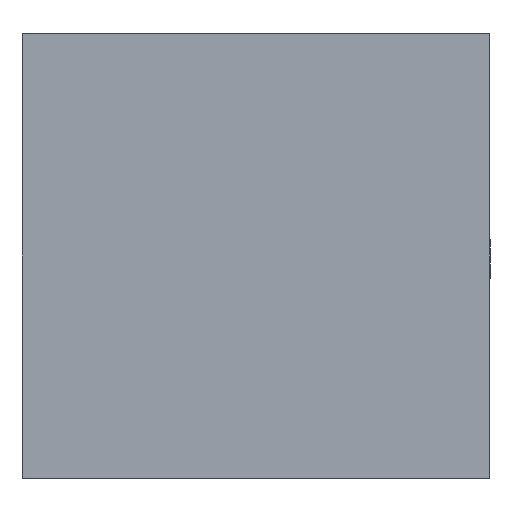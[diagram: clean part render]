
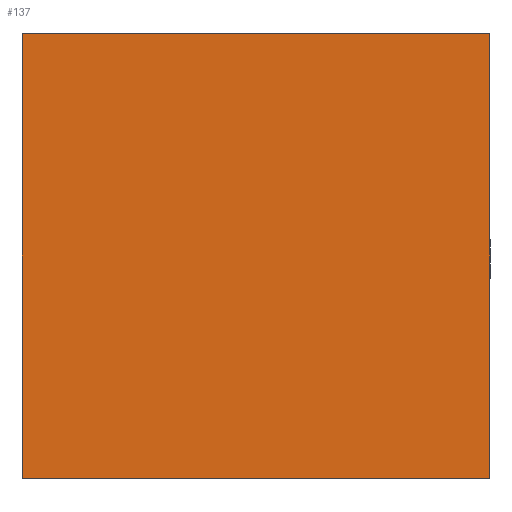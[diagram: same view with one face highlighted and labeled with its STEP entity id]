
A CAD part, left-side view. The second image highlights one B-rep face of the part: STEP entity #137.
In plain terms, the highlighted planar face has unit normal (-1, 0, 0).
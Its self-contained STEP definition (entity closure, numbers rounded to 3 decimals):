
#21 = EDGE_CURVE('',#22,#24,#26,.T.);
#22 = VERTEX_POINT('',#23);
#23 = CARTESIAN_POINT('',(-4.45,5.,4.75));
#24 = VERTEX_POINT('',#25);
#25 = CARTESIAN_POINT('',(-4.45,-5.,4.75));
#26 = SURFACE_CURVE('',#27,(#31,#43),.PCURVE_S1.);
#27 = LINE('',#28,#29);
#28 = CARTESIAN_POINT('',(-4.45,5.,4.75));
#29 = VECTOR('',#30,1.);
#30 = DIRECTION('',(0.,-1.,0.));
#31 = PCURVE('',#32,#37);
#32 = PLANE('',#33);
#33 = AXIS2_PLACEMENT_3D('',#34,#35,#36);
#34 = CARTESIAN_POINT('',(-4.45,5.,4.75));
#35 = DIRECTION('',(0.,0.,1.));
#36 = DIRECTION('',(1.,0.,0.));
#37 = DEFINITIONAL_REPRESENTATION('',(#38),#42);
#38 = LINE('',#39,#40);
#39 = CARTESIAN_POINT('',(0.,0.));
#40 = VECTOR('',#41,1.);
#41 = DIRECTION('',(0.,-1.));
#42 = ( GEOMETRIC_REPRESENTATION_CONTEXT(2) 
PARAMETRIC_REPRESENTATION_CONTEXT() REPRESENTATION_CONTEXT('2D SPACE',''
  ) );
#43 = PCURVE('',#44,#49);
#44 = PLANE('',#45);
#45 = AXIS2_PLACEMENT_3D('',#46,#47,#48);
#46 = CARTESIAN_POINT('',(-4.45,5.,-4.75));
#47 = DIRECTION('',(-1.,0.,0.));
#48 = DIRECTION('',(0.,0.,1.));
#49 = DEFINITIONAL_REPRESENTATION('',(#50),#54);
#50 = LINE('',#51,#52);
#51 = CARTESIAN_POINT('',(9.5,0.));
#52 = VECTOR('',#53,1.);
#53 = DIRECTION('',(0.,-1.));
#54 = ( GEOMETRIC_REPRESENTATION_CONTEXT(2) 
PARAMETRIC_REPRESENTATION_CONTEXT() REPRESENTATION_CONTEXT('2D SPACE',''
  ) );
#72 = PLANE('',#73);
#73 = AXIS2_PLACEMENT_3D('',#74,#75,#76);
#74 = CARTESIAN_POINT('',(-4.45,-5.,4.75));
#75 = DIRECTION('',(0.,-1.,0.));
#76 = DIRECTION('',(0.,0.,-1.));
#126 = PLANE('',#127);
#127 = AXIS2_PLACEMENT_3D('',#128,#129,#130);
#128 = CARTESIAN_POINT('',(-4.45,5.,4.75));
#129 = DIRECTION('',(0.,-1.,0.));
#130 = DIRECTION('',(0.,0.,-1.));
#137 = ADVANCED_FACE('',(#138),#44,.T.);
#138 = FACE_BOUND('',#139,.T.);
#139 = EDGE_LOOP('',(#140,#170,#191,#192));
#140 = ORIENTED_EDGE('',*,*,#141,.T.);
#141 = EDGE_CURVE('',#142,#144,#146,.T.);
#142 = VERTEX_POINT('',#143);
#143 = CARTESIAN_POINT('',(-4.45,5.,-4.75));
#144 = VERTEX_POINT('',#145);
#145 = CARTESIAN_POINT('',(-4.45,-5.,-4.75));
#146 = SURFACE_CURVE('',#147,(#151,#158),.PCURVE_S1.);
#147 = LINE('',#148,#149);
#148 = CARTESIAN_POINT('',(-4.45,5.,-4.75));
#149 = VECTOR('',#150,1.);
#150 = DIRECTION('',(0.,-1.,0.));
#151 = PCURVE('',#44,#152);
#152 = DEFINITIONAL_REPRESENTATION('',(#153),#157);
#153 = LINE('',#154,#155);
#154 = CARTESIAN_POINT('',(0.,0.));
#155 = VECTOR('',#156,1.);
#156 = DIRECTION('',(0.,-1.));
#157 = ( GEOMETRIC_REPRESENTATION_CONTEXT(2) 
PARAMETRIC_REPRESENTATION_CONTEXT() REPRESENTATION_CONTEXT('2D SPACE',''
  ) );
#158 = PCURVE('',#159,#164);
#159 = PLANE('',#160);
#160 = AXIS2_PLACEMENT_3D('',#161,#162,#163);
#161 = CARTESIAN_POINT('',(4.45,5.,-4.75));
#162 = DIRECTION('',(0.,0.,-1.));
#163 = DIRECTION('',(-1.,0.,0.));
#164 = DEFINITIONAL_REPRESENTATION('',(#165),#169);
#165 = LINE('',#166,#167);
#166 = CARTESIAN_POINT('',(8.9,0.));
#167 = VECTOR('',#168,1.);
#168 = DIRECTION('',(0.,-1.));
#169 = ( GEOMETRIC_REPRESENTATION_CONTEXT(2) 
PARAMETRIC_REPRESENTATION_CONTEXT() REPRESENTATION_CONTEXT('2D SPACE',''
  ) );
#170 = ORIENTED_EDGE('',*,*,#171,.T.);
#171 = EDGE_CURVE('',#144,#24,#172,.T.);
#172 = SURFACE_CURVE('',#173,(#177,#184),.PCURVE_S1.);
#173 = LINE('',#174,#175);
#174 = CARTESIAN_POINT('',(-4.45,-5.,-4.75));
#175 = VECTOR('',#176,1.);
#176 = DIRECTION('',(0.,0.,1.));
#177 = PCURVE('',#44,#178);
#178 = DEFINITIONAL_REPRESENTATION('',(#179),#183);
#179 = LINE('',#180,#181);
#180 = CARTESIAN_POINT('',(0.,-10.));
#181 = VECTOR('',#182,1.);
#182 = DIRECTION('',(1.,0.));
#183 = ( GEOMETRIC_REPRESENTATION_CONTEXT(2) 
PARAMETRIC_REPRESENTATION_CONTEXT() REPRESENTATION_CONTEXT('2D SPACE',''
  ) );
#184 = PCURVE('',#72,#185);
#185 = DEFINITIONAL_REPRESENTATION('',(#186),#190);
#186 = LINE('',#187,#188);
#187 = CARTESIAN_POINT('',(9.5,0.));
#188 = VECTOR('',#189,1.);
#189 = DIRECTION('',(-1.,0.));
#190 = ( GEOMETRIC_REPRESENTATION_CONTEXT(2) 
PARAMETRIC_REPRESENTATION_CONTEXT() REPRESENTATION_CONTEXT('2D SPACE',''
  ) );
#191 = ORIENTED_EDGE('',*,*,#21,.F.);
#192 = ORIENTED_EDGE('',*,*,#193,.F.);
#193 = EDGE_CURVE('',#142,#22,#194,.T.);
#194 = SURFACE_CURVE('',#195,(#199,#206),.PCURVE_S1.);
#195 = LINE('',#196,#197);
#196 = CARTESIAN_POINT('',(-4.45,5.,-4.75));
#197 = VECTOR('',#198,1.);
#198 = DIRECTION('',(0.,0.,1.));
#199 = PCURVE('',#44,#200);
#200 = DEFINITIONAL_REPRESENTATION('',(#201),#205);
#201 = LINE('',#202,#203);
#202 = CARTESIAN_POINT('',(0.,0.));
#203 = VECTOR('',#204,1.);
#204 = DIRECTION('',(1.,0.));
#205 = ( GEOMETRIC_REPRESENTATION_CONTEXT(2) 
PARAMETRIC_REPRESENTATION_CONTEXT() REPRESENTATION_CONTEXT('2D SPACE',''
  ) );
#206 = PCURVE('',#126,#207);
#207 = DEFINITIONAL_REPRESENTATION('',(#208),#212);
#208 = LINE('',#209,#210);
#209 = CARTESIAN_POINT('',(9.5,0.));
#210 = VECTOR('',#211,1.);
#211 = DIRECTION('',(-1.,0.));
#212 = ( GEOMETRIC_REPRESENTATION_CONTEXT(2) 
PARAMETRIC_REPRESENTATION_CONTEXT() REPRESENTATION_CONTEXT('2D SPACE',''
  ) );
